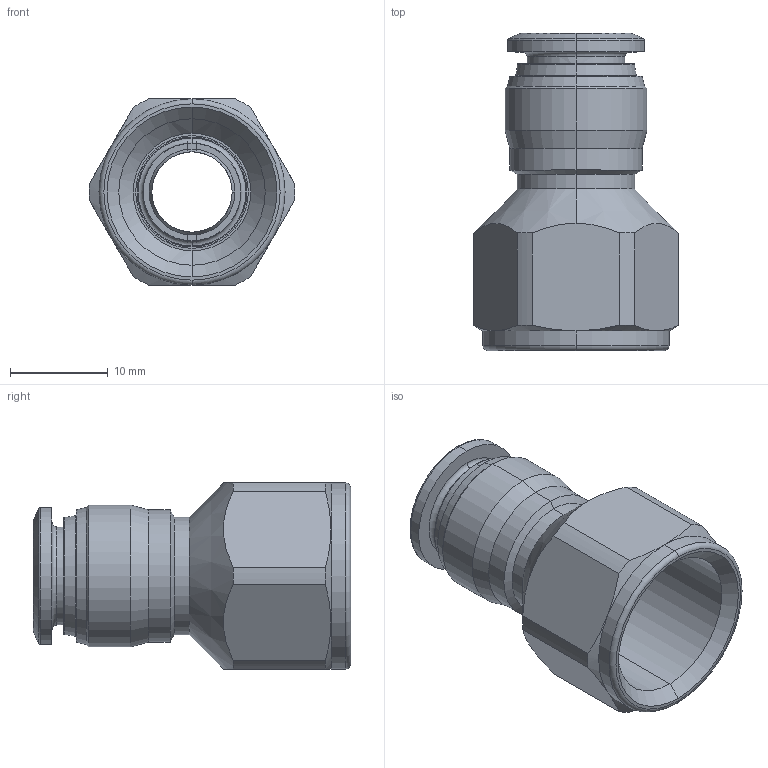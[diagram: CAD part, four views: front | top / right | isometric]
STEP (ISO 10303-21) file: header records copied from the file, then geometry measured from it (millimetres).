
FILE_DESCRIPTION (( 'STEP AP214' ), '1' );
FILE_NAME ('40030V0010A.STEP', '2016-05-16T11:46:56', ( '' ), ( '' ), 'SwSTEP 2.0', 'SolidWorks 2016', '' );
FILE_SCHEMA (( 'AUTOMOTIVE_DESIGN' ));
Length unit declared in the file: millimetre
Products named in the file (1): 40030V0010A
Bounding box: 20.99 x 32.4 x 19 mm (x, y, z)
Surface area: 2890.7 mm2 (no closed solid volume)
Topology: 0 solids, 3 shells, 74 faces, 194 edges, 122 vertices
Faces by surface type: cone 26, cylinder 24, plane 16, torus 8
Entity records: 3217 total; most frequent: CARTESIAN_POINT 547, DIRECTION 416, ORIENTED_EDGE 348, EDGE_CURVE 194, AXIS2_PLACEMENT_3D 171, VERTEX_POINT 122, CIRCLE 96, EDGE_LOOP 80
